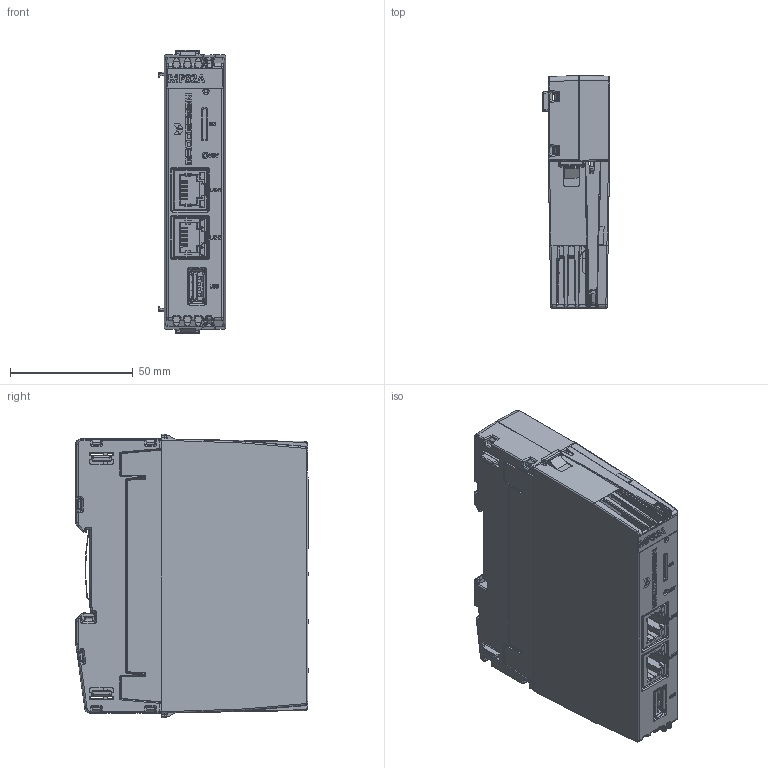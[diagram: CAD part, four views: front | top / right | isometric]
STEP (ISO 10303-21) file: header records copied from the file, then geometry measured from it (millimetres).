
FILE_DESCRIPTION(/* description */ (''),/* implementation_level */ '2;1');
FILE_NAME(/* name */ 'C:\Users\Public\Documents\Autodesk\Inventor 2023\MP32A_Simplified+BB61A.stp',/* time_stamp */ '2024-11-12T20:57:57+01:00',/* author */ ('shoma'),/* organization */ (''),/* preprocessor_version */ 'ST-DEVELOPER v19',/* originating_system */ 'Autodesk Inventor 2023',/* authorisation */ '');
FILE_SCHEMA (('AUTOMOTIVE_DESIGN { 1 0 10303 214 3 1 1 }'));
Products named in the file (1): MP32A_Simplified+BB61A
Bounding box: 27.4 x 94.58 x 115.5 mm (x, y, z)
Volume: 128393.7 mm3; surface area: 80037.5 mm2
Topology: 9 solids, 9 shells, 6499 faces, 17804 edges, 11190 vertices
Faces by surface type: plane 3890, cylinder 1806, bspline 579, sphere 184, torus 26, cone 14
Full cylindrical faces by diameter (mm): 0.3 x39, 0.7 x36, 0.75 x2, 0.8 x13, 0.85 x24, 0.9 x28, 1 x4, 1.02 x8, 1.3 x4, 1.4 x4, 1.6 x2, 1.7 x4, 2.35 x2, 2.5 x1, 3 x3, 3.2 x4, 3.25 x2
Entity records: 228685 total; most frequent: CARTESIAN_POINT 57855, ORIENTED_EDGE 35264, DIRECTION 32800, EDGE_CURVE 17632, LINE 12722, VECTOR 12722, VERTEX_POINT 11190, AXIS2_PLACEMENT_3D 10039
